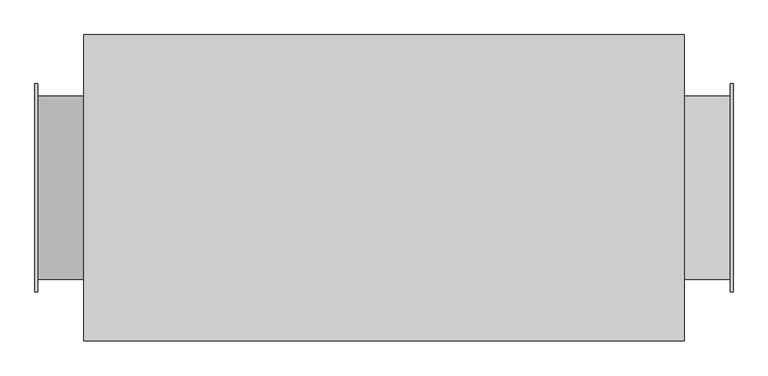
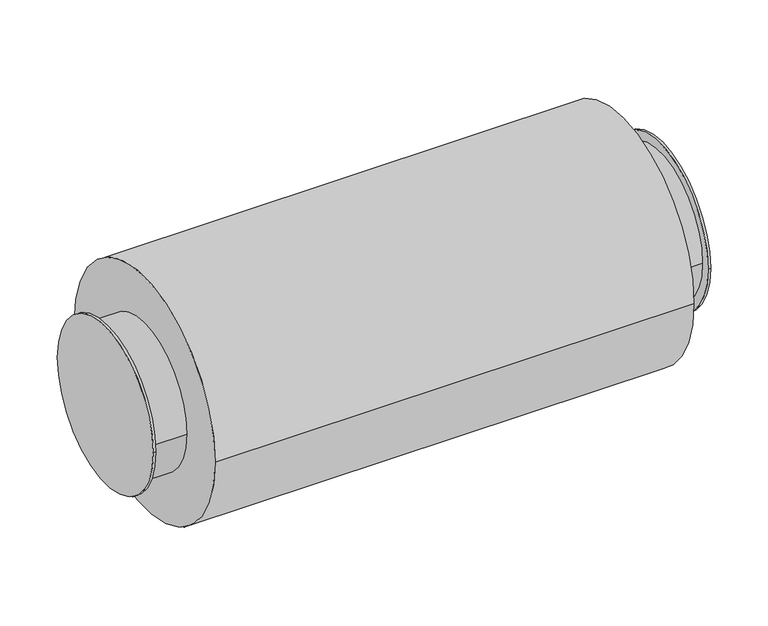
"""IFC4 building model written with IfcOpenShell, lengths in millimetres: damper geometry, Шумоглушитель_Круглый_ГТК : ГТК 1 (L=980)."""

import ifcopenshell
import ifcopenshell.guid

model = None  # the IFC model being written
_history = None  # IfcOwnerHistory: only IFC2X3 demands one
_inside = {}  # id of a spatial element -> (the spatial element, [elements in it])
_under = {}  # id of a project, library or spatial element -> (it, [spatial elements below it])
_declared = {}  # id of a project -> (the project, [libraries it declares])
_typed = {}  # id of a type object -> (the type object, [elements of that type])
_made_of = {}  # id of a material, layer set ... -> (it, [elements and type objects made of it])


def new_model(schema):
    """Start an empty IFC model of exactly this schema.

    Asked for "IFC4X3", IfcOpenShell would pick the latest addendum, in which some entities
    have other attributes; the version numbers below select the first issue.
    IFC2X3 requires an IfcOwnerHistory on every rooted entity: one is made here for all.
    """
    global model, _history
    if schema == "IFC4X3":
        model = ifcopenshell.file(schema_version=(4, 3, 0, 0))
    else:
        model = ifcopenshell.file(schema=schema)
    _inside.clear()
    _under.clear()
    _declared.clear()
    _typed.clear()
    _made_of.clear()
    _history = None
    if model.schema == "IFC2X3":
        org = make("IfcOrganization", Name="unknown")
        user = make(
            "IfcPersonAndOrganization",
            ThePerson=make("IfcPerson", FamilyName="unknown"),
            TheOrganization=org,
        )
        app = make(
            "IfcApplication",
            ApplicationDeveloper=org,
            Version="unknown",
            ApplicationFullName="unknown",
            ApplicationIdentifier="unknown",
        )
        _history = make(
            "IfcOwnerHistory",
            OwningUser=user,
            OwningApplication=app,
            ChangeAction="ADDED",
            CreationDate=0,
        )
    return model


def make(cls, **values):
    """One entity of the class cls with the attributes given. An attribute that is None is left unset."""
    return model.create_entity(
        cls, **{name: value for name, value in values.items() if value is not None}
    )


def rooted(cls, **values):
    """An entity with a GlobalId (a new one), such as an element, a storey or a relation."""
    return make(cls, GlobalId=ifcopenshell.guid.new(), OwnerHistory=_history, **values)


def si_unit(unit_type, name, prefix=None):
    """IfcSIUnit, for example si_unit("LENGTHUNIT", "METRE", prefix="MILLI")."""
    return make("IfcSIUnit", UnitType=unit_type, Prefix=prefix, Name=name)


def assignment(units):
    """IfcUnitAssignment: the units of a project."""
    return None if units is None else make("IfcUnitAssignment", Units=units)


def point(xyz):
    """IfcCartesianPoint."""
    return None if xyz is None else make("IfcCartesianPoint", Coordinates=xyz)


def direction(xyz):
    """IfcDirection."""
    return None if xyz is None else make("IfcDirection", DirectionRatios=xyz)


def frame(location, z_axis=None, x_axis=None):
    """IfcAxis2Placement3D, a coordinate frame: its origin and axes. An axis left out is left unset."""
    return make(
        "IfcAxis2Placement3D",
        Location=point(location),
        Axis=direction(z_axis),
        RefDirection=direction(x_axis),
    )


def frame_2d(location, x_axis=None):
    """IfcAxis2Placement2D, a coordinate frame in the plane: its origin and x axis."""
    return make(
        "IfcAxis2Placement2D", Location=point(location), RefDirection=direction(x_axis)
    )


def origin():
    """The frame at (0, 0, 0) with its axes left unset."""
    return frame((0.0, 0.0, 0.0))


def origin_2d():
    """The frame at (0, 0) in the plane with its x axis left unset."""
    return frame_2d((0.0, 0.0))


def place(relative_to, where):
    """IfcLocalPlacement: puts the frame where relative to a parent placement (None: the world)."""
    return make(
        "IfcLocalPlacement", PlacementRelTo=relative_to, RelativePlacement=where
    )


def context(
    kind, dimensions, precision=None, world=None, true_north=None, identifier=None
):
    """IfcGeometricRepresentationContext, for example the 3D "Model" context."""
    return make(
        "IfcGeometricRepresentationContext",
        ContextIdentifier=identifier,
        ContextType=kind,
        CoordinateSpaceDimension=dimensions,
        Precision=precision,
        WorldCoordinateSystem=world,
        TrueNorth=true_north,
    )


def project(units=None, contexts=None):
    """IfcProject with its units and contexts."""
    return rooted(
        "IfcProject",
        Name="project",
        RepresentationContexts=contexts,
        UnitsInContext=assignment(units),
    )


def spatial(cls, under=None, at=None, **own):
    """A site, building, storey or space (cls), placed at a placement, below another one or the project."""
    s = rooted(cls, ObjectPlacement=at, **own)
    if under is not None:
        _under.setdefault(under.id(), (under, []))[1].append(s)
    return s


def circle_curve(where, radius):
    """IfcCircle in the frame where."""
    return make("IfcCircle", Position=where, Radius=radius)


def trimmed(basis, trim1, trim2, sense, master):
    """IfcTrimmedCurve: the piece of a basis curve between two trims."""
    return make(
        "IfcTrimmedCurve",
        BasisCurve=basis,
        Trim1=trim1,
        Trim2=trim2,
        SenseAgreement=sense,
        MasterRepresentation=master,
    )


def segment(curve, same_sense, transition):
    """IfcCompositeCurveSegment."""
    return make(
        "IfcCompositeCurveSegment",
        Transition=transition,
        SameSense=same_sense,
        ParentCurve=curve,
    )


def composite_curve(segments, self_intersect=None):
    """IfcCompositeCurve: segments joined end to end."""
    return make("IfcCompositeCurve", Segments=segments, SelfIntersect=self_intersect)


def outline(outer, holes=None, kind="AREA"):
    """IfcArbitraryClosedProfileDef: a profile drawn as a closed curve; with holes, ...WithVoids."""
    if holes is None:
        return make("IfcArbitraryClosedProfileDef", ProfileType=kind, OuterCurve=outer)
    return make(
        "IfcArbitraryProfileDefWithVoids",
        ProfileType=kind,
        OuterCurve=outer,
        InnerCurves=holes,
    )


def extrude(swept, where, along, depth):
    """IfcExtrudedAreaSolid: the profile swept, set in the frame where, extruded along a direction by depth."""
    return make(
        "IfcExtrudedAreaSolid",
        SweptArea=swept,
        Position=where,
        ExtrudedDirection=direction(along),
        Depth=depth,
    )


def shape(context_of_items, identifier, shape_type, items):
    """IfcShapeRepresentation: the items that make up one representation, for example the "Body"."""
    return make(
        "IfcShapeRepresentation",
        ContextOfItems=context_of_items,
        RepresentationIdentifier=identifier,
        RepresentationType=shape_type,
        Items=items,
    )


def source(mapping_origin, context_of_items, identifier, shape_type, items):
    """IfcRepresentationMap: a shape defined once, which mapped items show again and again."""
    return make(
        "IfcRepresentationMap",
        MappingOrigin=mapping_origin,
        MappedRepresentation=shape(context_of_items, identifier, shape_type, items),
    )


def transform(
    local_origin,
    x_axis=None,
    y_axis=None,
    z_axis=None,
    scale=None,
    scale2=None,
    scale3=None,
    uniform=True,
):
    """IfcCartesianTransformationOperator3D, or its non-uniform kind. x_axis, y_axis, z_axis: its Axis1, 2, 3."""
    if uniform:
        return make(
            "IfcCartesianTransformationOperator3D",
            Axis1=direction(x_axis),
            Axis2=direction(y_axis),
            LocalOrigin=point(local_origin),
            Scale=scale,
            Axis3=direction(z_axis),
        )
    return make(
        "IfcCartesianTransformationOperator3DnonUniform",
        Axis1=direction(x_axis),
        Axis2=direction(y_axis),
        LocalOrigin=point(local_origin),
        Scale=scale,
        Axis3=direction(z_axis),
        Scale2=scale2,
        Scale3=scale3,
    )


def mapped(mapping_source, mapping_target):
    """IfcMappedItem: shows the shape of a source again, moved by a transform."""
    return make(
        "IfcMappedItem", MappingSource=mapping_source, MappingTarget=mapping_target
    )


def made_of(thing, what):
    """Note that an element or type object is made of a material, layer set ...; save() writes the relation."""
    if what is not None:
        _made_of.setdefault(what.id(), (what, []))[1].append(thing)
    return thing


def element(
    cls,
    number,
    at=None,
    inside=None,
    cuts=None,
    type_object=None,
    material=None,
    context=None,
    identifier="Body",
    shape_type=None,
    held_by="IfcProductDefinitionShape",
    body=None,
    shapes=None,
    **own,
):
    """One element of the class cls, such as IfcWall. Its Tag is "e" and its number.

    at: its placement. inside: the storey or other place that contains it. cuts: it is an
    opening in that element (IfcRelVoidsElement). A single representation is given by context,
    identifier, shape_type and body (its items); several are given by shapes. held_by: the class
    of the entity that holds the representations. save() writes the other relations.
    """
    e = rooted(cls, Tag="e%d" % number, ObjectPlacement=at, **own)
    if body is not None:
        shapes = [shape(context, identifier, shape_type, body)]
    if shapes is not None:
        e.Representation = make(held_by, Representations=shapes)
    if inside is not None:
        _inside.setdefault(inside.id(), (inside, []))[1].append(e)
    if cuts is not None:
        rooted(
            "IfcRelVoidsElement", RelatingBuildingElement=cuts, RelatedOpeningElement=e
        )
    if type_object is not None:
        _typed.setdefault(type_object.id(), (type_object, []))[1].append(e)
    return made_of(e, material)


def aggregate(whole, parts):
    """IfcRelAggregates: a whole, such as a stair, and the parts it consists of."""
    return rooted("IfcRelAggregates", RelatingObject=whole, RelatedObjects=parts)


def save(model, path):
    """Write the relations noted so far, then the file.

    IfcRelAggregates (storeys below a building ...), IfcRelContainedInSpatialStructure (elements
    in a storey), IfcRelDefinesByType, IfcRelAssociatesMaterial and IfcRelDeclares: one each for
    every whole, place, type object, material and project.
    """
    for whole, parts in _under.values():
        aggregate(whole, parts)
    for where, things in _inside.values():
        rooted(
            "IfcRelContainedInSpatialStructure",
            RelatedElements=things,
            RelatingStructure=where,
        )
    for kind, things in _typed.values():
        rooted("IfcRelDefinesByType", RelatedObjects=things, RelatingType=kind)
    for what, things in _made_of.values():
        rooted("IfcRelAssociatesMaterial", RelatedObjects=things, RelatingMaterial=what)
    for by, libraries in _declared.values():
        rooted("IfcRelDeclares", RelatingContext=by, RelatedDefinitions=libraries)
    model.write(path)


def plane_surface(at):
    """IfcPlane: the flat surface through the origin of the frame at, square to its z axis."""
    return make("IfcPlane", Position=at)


def cylinder_surface(at, radius):
    """IfcCylindricalSurface: all points at the distance radius from the z axis of the frame at."""
    return make("IfcCylindricalSurface", Position=at, Radius=radius)


def advanced_brep(points, edges, surfaces, faces):
    """IfcAdvancedBrep: a solid bounded by faces that lie on surfaces and meet in shared edges.

    An edge is (start, end): straight between two places in points (the first is 0);
    or (start, end, curve); or (start, end, curve, False) where it runs against its curve.
    A face is (place in surfaces, loops), or (place, loops, False) where it looks against
    its surface's normal. A loop lists edges by number (the first is 1), with a minus sign
    where the edge is run from its end to its start. The first loop is the outer one.
    """
    corners = [point(p) for p in points]
    vertices = [make("IfcVertexPoint", VertexGeometry=c) for c in corners]
    made = []
    for start, end, *more in edges:
        made.append(
            make(
                "IfcEdgeCurve",
                EdgeStart=vertices[start],
                EdgeEnd=vertices[end],
                EdgeGeometry=more[0] if more else make("IfcPolyline", Points=[corners[start], corners[end]]),
                SameSense=more[1] if len(more) > 1 else True,
            )
        )
    hull = []
    for where, loops, *sense in faces:
        bounds = []
        for j, loop in enumerate(loops):
            ring = [make("IfcOrientedEdge", EdgeElement=made[abs(k) - 1], Orientation=k > 0) for k in loop]
            bounds.append(
                make(
                    "IfcFaceOuterBound" if j == 0 else "IfcFaceBound",
                    Bound=make("IfcEdgeLoop", EdgeList=ring),
                    Orientation=True,
                )
            )
        hull.append(make("IfcAdvancedFace", Bounds=bounds, FaceSurface=surfaces[where], SameSense=sense[0] if sense else True))
    return make("IfcAdvancedBrep", Outer=make("IfcClosedShell", CfsFaces=hull))


def damper_f27f8fda(model_context):
    return source(origin(), model_context, "Body", "SolidModel", [
        advanced_brep(
        [(565.0, 170.0, 0.0), (565.0, -170.0, 0.0), (565.0, 150.0, 0.0), (565.0, -150.0, 0.0), (490.0, 150.0, 0.0), (490.0, -150.0, 0.0), (570.0, -170.0, 0.0), (570.0, 170.0, 0.0)],
        [
            (0, 1, circle_curve(frame((565.0, 0.0, 0.0), z_axis=(-1.0, 0.0, 0.0), x_axis=(0.0, 1.0, 0.0)), 170.0)),
            (1, 0, circle_curve(frame((565.0, 0.0, 0.0), z_axis=(-1.0, 0.0, 0.0), x_axis=(0.0, 1.0, 0.0)), 170.0)),
            (2, 3, circle_curve(frame((565.0, 0.0, 0.0), z_axis=(1.0, 0.0, 0.0), x_axis=(0.0, -1.0, 0.0)), 150.0)),
            (3, 2, circle_curve(frame((565.0, 0.0, 0.0), z_axis=(1.0, 0.0, 0.0), x_axis=(0.0, -1.0, 0.0)), 150.0)),
            (2, 4),
            (4, 5, circle_curve(frame((490.0, 0.0, 0.0), z_axis=(1.0, 0.0, 0.0), x_axis=(0.0, -1.0, 0.0)), 150.0)),
            (5, 3),
            (5, 4, circle_curve(frame((490.0, 0.0, 0.0), z_axis=(1.0, 0.0, 0.0), x_axis=(0.0, -1.0, 0.0)), 150.0)),
            (6, 7, circle_curve(frame((570.0, 0.0, 0.0), z_axis=(1.0, 0.0, 0.0), x_axis=(0.0, 1.0, 0.0)), 170.0)),
            (7, 6, circle_curve(frame((570.0, 0.0, 0.0), z_axis=(1.0, 0.0, 0.0), x_axis=(0.0, 1.0, 0.0)), 170.0)),
            (6, 1),
            (0, 7),
        ],
        [
            plane_surface(frame((565.0, -150.0, 0.0), z_axis=(-1.0, 0.0, 0.0), x_axis=(0.0, 0.0, 1.0))),
            cylinder_surface(frame((565.0, 0.0, 0.0), z_axis=(1.0, 0.0, 0.0), x_axis=(0.0, -1.0, 0.0)), 150.0),
            plane_surface(frame((570.0, 170.0, 0.0), z_axis=(1.0, 0.0, 0.0), x_axis=(0.0, 0.0, 1.0))),
            plane_surface(frame((490.0, 170.0, 0.0), z_axis=(-1.0, 0.0, 0.0), x_axis=(0.0, 0.0, -1.0))),
            cylinder_surface(frame((490.0, 0.0, 0.0), z_axis=(1.0, 0.0, 0.0), x_axis=(0.0, 1.0, 0.0)), 170.0),
        ],
        [
            (0, [[1, 2], [3, 4]]),
            (1, [[-3, 5, 6, 7]]),
            (1, [[-4, -7, 8, -5]]),
            (2, [[9, 10]]),
            (3, [[-6, -8]]),
            (4, [[-9, 11, -1, 12]]),
            (4, [[-10, -12, -2, -11]]),
        ],
    ),
        advanced_brep(
        [(-565.0, -170.0, 0.0), (-565.0, 170.0, 0.0), (-565.0, -150.0, 0.0), (-565.0, 150.0, 0.0), (-490.0, -150.0, 0.0), (-490.0, 150.0, 0.0), (-570.0, -170.0, 0.0), (-570.0, 170.0, 0.0)],
        [
            (0, 1, circle_curve(frame((-565.0, 0.0, 0.0), z_axis=(1.0, 0.0, 0.0), x_axis=(0.0, 1.0, 0.0)), 170.0)),
            (1, 0, circle_curve(frame((-565.0, 0.0, 0.0), z_axis=(1.0, 0.0, 0.0), x_axis=(0.0, 1.0, 0.0)), 170.0)),
            (2, 3, circle_curve(frame((-565.0, 0.0, 0.0), z_axis=(-1.0, 0.0, 0.0), x_axis=(0.0, 1.0, 0.0)), 150.0)),
            (3, 2, circle_curve(frame((-565.0, 0.0, 0.0), z_axis=(-1.0, 0.0, 0.0), x_axis=(0.0, 1.0, 0.0)), 150.0)),
            (2, 4),
            (4, 5, circle_curve(frame((-490.0, 0.0, 0.0), z_axis=(-1.0, 0.0, 0.0), x_axis=(0.0, 1.0, 0.0)), 150.0)),
            (5, 3),
            (5, 4, circle_curve(frame((-490.0, 0.0, 0.0), z_axis=(-1.0, 0.0, 0.0), x_axis=(0.0, 1.0, 0.0)), 150.0)),
            (6, 7, circle_curve(frame((-570.0, 0.0, 0.0), z_axis=(-1.0, 0.0, 0.0), x_axis=(0.0, 1.0, 0.0)), 170.0)),
            (7, 6, circle_curve(frame((-570.0, 0.0, 0.0), z_axis=(-1.0, 0.0, 0.0), x_axis=(0.0, 1.0, 0.0)), 170.0)),
            (7, 1),
            (0, 6),
        ],
        [
            plane_surface(frame((-565.0, 250.0, 0.0), z_axis=(1.0, 0.0, 0.0), x_axis=(0.0, 0.0, -1.0))),
            cylinder_surface(frame((0.0, 0.0, 0.0), z_axis=(-1.0, 0.0, 0.0), x_axis=(0.0, 1.0, 0.0)), 150.0),
            plane_surface(frame((-490.0, 170.0, 0.0), z_axis=(1.0, 0.0, 0.0), x_axis=(0.0, 0.0, 1.0))),
            plane_surface(frame((-570.0, 170.0, 0.0), z_axis=(-1.0, 0.0, 0.0), x_axis=(0.0, 0.0, -1.0))),
            cylinder_surface(frame((-570.0, 0.0, 0.0), z_axis=(1.0, 0.0, 0.0), x_axis=(0.0, 1.0, 0.0)), 170.0),
        ],
        [
            (0, [[1, 2], [3, 4]]),
            (1, [[-3, 5, 6, 7]]),
            (1, [[-4, -7, 8, -5]]),
            (2, [[-6, -8]]),
            (3, [[9, 10]]),
            (4, [[-10, 11, -1, 12]]),
            (4, [[-9, -12, -2, -11]]),
        ],
    ),
        extrude(outline(composite_curve([segment(trimmed(circle_curve(origin_2d(), 250.0), [point((-250.0, 0.0))], [point((250.0, 0.0))], False, "CARTESIAN"), True, "CONTINUOUS"), segment(trimmed(circle_curve(origin_2d(), 250.0), [point((250.0, 0.0))], [point((-250.0, 0.0))], False, "CARTESIAN"), True, "CONTINUOUS")], self_intersect=False)), frame((-490.0, 0.0, 0.0), z_axis=(1.0, 0.0, 0.0), x_axis=(0.0, 1.0, 0.0)), (0.0, 0.0, 1.0), 980.0),
    ])


if __name__ == "__main__":
    model = new_model("IFC4")
    model_context = context("Model", 3, world=origin())
    ifc_project = project(units=[si_unit("LENGTHUNIT", "METRE", prefix="MILLI")], contexts=[model_context])
    site = spatial("IfcSite", under=ifc_project)
    building = spatial("IfcBuilding", under=site)
    placement = place(None, origin())
    damper_shape = damper_f27f8fda(model_context)
    element("IfcDamper", 1, ObjectType="Шумоглушитель_Круглый_ГТК : ГТК 1 (L=980)", at=placement, inside=building, context=model_context, shape_type="MappedRepresentation", body=[
        mapped(damper_shape, transform((0.0, 0.0, 0.0), x_axis=(1.0, 0.0, 0.0), y_axis=(0.0, 1.0, 0.0), z_axis=(0.0, 0.0, 1.0))),
    ])
    save(model, "model.ifc")
